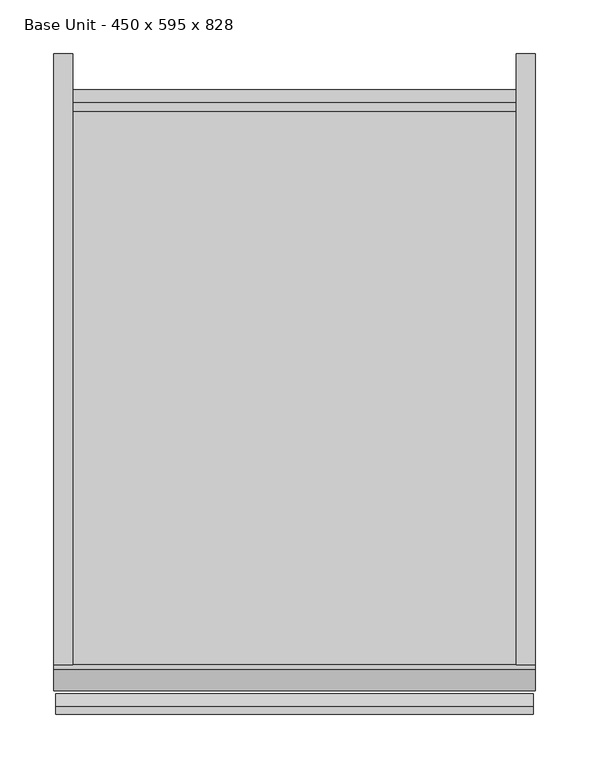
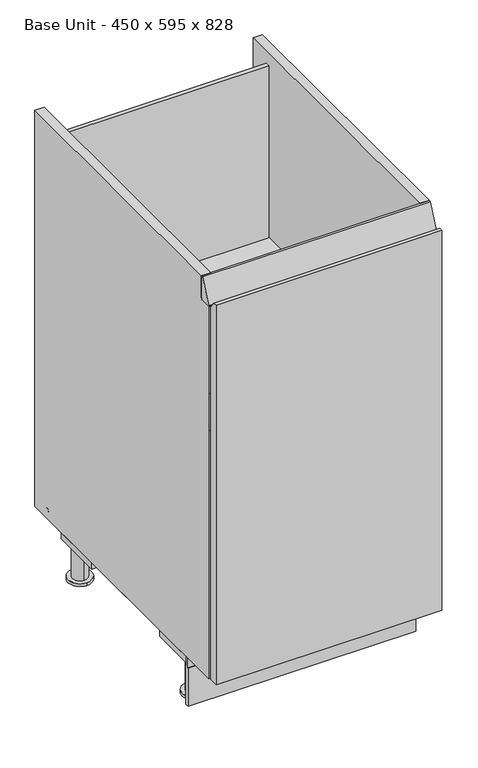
"""IFC4 building model written with IfcOpenShell, lengths in millimetres: furniture geometry, Furniture_Other-Furniture_Molteni&C_Prime_Base : Base Unit - 450 x 595 x 828."""

from ifc_helpers import new_model, si_unit, point, frame, frame_2d, origin, place, context, project, spatial, polyline, circle_curve, trimmed, segment, composite_curve, outline, extrude, faceted_brep, source, transform, mapped, element, save
from ifc_brep_helpers import plane_surface, cylinder_surface, advanced_brep


def base_unit_450_x_595_x_828_44056503(model_context):
    return source(origin(), model_context, "Body", "SolidModel", [
        extrude(outline(polyline([(207.0, 243.4999806), (207.0, -297.5), (-207.0, -297.5), (-207.0, 243.4999806), (207.0, 243.4999806)])), frame((0.0, 0.0, 521.0), z_axis=(0.0, 0.0, 1.0), x_axis=(1.0, 0.0, 0.0)), (0.0, 0.0, 1.0), 22.0),
        extrude(outline(composite_curve([segment(polyline([(-273.0222513, 928.0), (297.5, 928.0), (297.5, 100.0), (-297.5, 100.0), (-297.5, 618.8689315), (-297.5, 696.0050795), (-297.5, 878.3669795), (-277.034701, 878.3669795)]), True, "CONTINUOUS"), segment(trimmed(circle_curve(frame_2d((-277.034701, 882.3794292)), 4.0124497), [point((-277.034701, 878.3669795))], [point((-273.0222513, 882.3794292))], True, "CARTESIAN"), True, "CONTINUOUS"), segment(polyline([(-273.0222513, 882.3794292), (-273.0222513, 928.0)]), True, "CONTINUOUS")], self_intersect=False)), frame((-225.0, 0.0, 0.0), z_axis=(1.0, 0.0, 0.0), x_axis=(0.0, 1.0, 0.0)), (0.0, 0.0, 1.0), 18.0),
        extrude(outline(composite_curve([segment(polyline([(-273.0222513, 928.0), (297.5, 928.0), (297.5, 100.0), (-297.5, 100.0), (-297.5, 522.8850722), (-297.5, 728.3662692), (-297.5, 878.3669795), (-277.034701, 878.3669795)]), True, "CONTINUOUS"), segment(trimmed(circle_curve(frame_2d((-277.034701, 882.3794292)), 4.0124497), [point((-277.034701, 878.3669795))], [point((-273.0222513, 882.3794292))], True, "CARTESIAN"), True, "CONTINUOUS"), segment(polyline([(-273.0222513, 882.3794292), (-273.0222513, 928.0)]), True, "CONTINUOUS")], self_intersect=False)), frame((207.0, 0.0, 0.0), z_axis=(1.0, 0.0, 0.0), x_axis=(0.0, 1.0, 0.0)), (0.0, 0.0, 1.0), 18.0),
        advanced_brep(
        [(225.0, -227.5, 80.0), (225.0, -227.5, 0.0), (225.0, -219.5, 0.0), (225.0, -219.5, 80.0), (225.0, -220.5, 80.0), (225.0, -220.5, 100.0), (225.0, -226.5, 100.0), (225.0, -226.5, 80.0), (-225.0, -227.5, 80.0), (-225.0, -226.5, 80.0), (-225.0, -226.5, 100.0), (-225.0, -220.5, 100.0), (-225.0, -220.5, 80.0), (-225.0, -219.5, 80.0), (-225.0, -219.5, 0.0), (-225.0, -227.5, 0.0), (-217.0, -219.5, 80.0), (-217.0, -219.5, 76.0), (-112.4, -219.5, 76.0), (-112.4, -219.5, 80.0), (112.0, -219.5, 80.0), (112.0, -219.5, 76.0), (217.0, -219.5, 76.0), (217.0, -219.5, 80.0), (217.0, -220.2543184, 80.0), (112.0, -220.2543184, 80.0), (-112.4, -220.2543184, 80.0), (-217.0, -220.2543184, 80.0), (217.0, -220.2543184, 100.0), (217.0, -116.0117937, 100.0), (187.0, -116.0117937, 100.0), (112.0, -183.4214322, 100.0), (112.0, -220.2543184, 100.0), (-217.0, -220.2543184, 100.0), (-112.4, -220.2543184, 100.0), (-112.4, -183.3866121, 100.0), (-187.0, -116.0117937, 100.0), (-217.0, -116.0117937, 100.0), (112.0, -183.4214322, 76.0), (187.0, -116.0117937, 76.0), (217.0, -116.0117937, 76.0), (195.0, -210.450213, 76.0), (195.0, -180.450213, 76.0), (-217.0, -116.0117937, 76.0), (-187.0, -116.0117937, 76.0), (-112.4, -183.3866121, 76.0), (-195.0, -210.450213, 76.0), (-195.0, -180.450213, 76.0), (195.0, -172.0406948, 0.0), (195.0, -219.0487988, 0.0), (-195.0, -219.04912, 0.0), (-195.0, -172.041016, 0.0), (-195.0, -210.450213, 6.1757403), (-195.0, -180.450213, 6.1757403), (195.0, -210.450213, 6.1757403), (195.0, -180.450213, 6.1757403), (195.0, -172.0406948, 6.1757403), (195.0, -219.0487988, 6.1757403), (-195.0, -219.04912, 6.1757403), (-195.0, -172.041016, 6.1757403)],
        [
            (0, 1),
            (1, 2),
            (2, 3),
            (3, 4),
            (4, 5),
            (5, 6),
            (6, 7),
            (7, 0),
            (8, 9),
            (9, 10),
            (10, 11),
            (11, 12),
            (12, 13),
            (13, 14),
            (14, 15),
            (15, 8),
            (0, 8),
            (15, 1),
            (14, 2),
            (13, 16),
            (16, 17),
            (17, 18),
            (18, 19),
            (19, 20),
            (20, 21),
            (21, 22),
            (22, 23),
            (23, 3),
            (23, 24),
            (24, 25),
            (25, 20),
            (19, 26),
            (26, 27),
            (27, 16),
            (12, 4),
            (11, 5),
            (10, 6),
            (9, 7),
            (28, 29),
            (29, 30),
            (30, 31),
            (31, 32),
            (32, 28),
            (33, 34),
            (34, 35),
            (35, 36),
            (36, 37),
            (37, 33),
            (38, 39),
            (39, 40),
            (40, 22),
            (21, 38),
            (41, 42, circle_curve(frame((195.0, -195.450213, 76.0), z_axis=(0.0, 0.0, 1.0), x_axis=(1.0, 0.0, 0.0)), 15.0)),
            (42, 41, circle_curve(frame((195.0, -195.450213, 76.0), z_axis=(0.0, 0.0, 1.0), x_axis=(1.0, 0.0, 0.0)), 15.0)),
            (43, 44),
            (44, 45),
            (45, 18),
            (17, 43),
            (46, 47, circle_curve(frame((-195.0, -195.450213, 76.0), z_axis=(0.0, 0.0, 1.0), x_axis=(1.0, 0.0, 0.0)), 15.0)),
            (47, 46, circle_curve(frame((-195.0, -195.450213, 76.0), z_axis=(0.0, 0.0, 1.0), x_axis=(1.0, 0.0, 0.0)), 15.0)),
            (28, 24),
            (40, 29),
            (39, 30),
            (38, 31),
            (25, 32),
            (33, 27),
            (26, 34),
            (45, 35),
            (44, 36),
            (43, 37),
            (48, 49, circle_curve(frame((195.0, -195.5447468, 0.0), z_axis=(0.0, 0.0, -1.0), x_axis=(1.0, 0.0, 0.0)), 23.504052)),
            (49, 48, circle_curve(frame((195.0, -195.5447468, 0.0), z_axis=(0.0, 0.0, -1.0), x_axis=(1.0, 0.0, 0.0)), 23.504052)),
            (50, 51, circle_curve(frame((-195.0, -195.545068, 0.0), z_axis=(0.0, 0.0, -1.0), x_axis=(1.0, 0.0, 0.0)), 23.504052)),
            (51, 50, circle_curve(frame((-195.0, -195.545068, 0.0), z_axis=(0.0, 0.0, -1.0), x_axis=(1.0, 0.0, 0.0)), 23.504052)),
            (46, 52),
            (52, 53, circle_curve(frame((-195.0, -195.450213, 6.1757403), z_axis=(0.0, 0.0, 1.0), x_axis=(1.0, 0.0, 0.0)), 15.0)),
            (53, 47),
            (53, 52, circle_curve(frame((-195.0, -195.450213, 6.1757403), z_axis=(0.0, 0.0, 1.0), x_axis=(1.0, 0.0, 0.0)), 15.0)),
            (41, 54),
            (54, 55, circle_curve(frame((195.0, -195.450213, 6.1757403), z_axis=(0.0, 0.0, 1.0), x_axis=(1.0, 0.0, 0.0)), 15.0)),
            (55, 42),
            (55, 54, circle_curve(frame((195.0, -195.450213, 6.1757403), z_axis=(0.0, 0.0, 1.0), x_axis=(1.0, 0.0, 0.0)), 15.0)),
            (56, 57, circle_curve(frame((195.0, -195.5447468, 6.1757403), z_axis=(0.0, 0.0, 1.0), x_axis=(1.0, 0.0, 0.0)), 23.504052)),
            (57, 56, circle_curve(frame((195.0, -195.5447468, 6.1757403), z_axis=(0.0, 0.0, 1.0), x_axis=(1.0, 0.0, 0.0)), 23.504052)),
            (58, 59, circle_curve(frame((-195.0, -195.545068, 6.1757403), z_axis=(0.0, 0.0, 1.0), x_axis=(1.0, 0.0, 0.0)), 23.504052)),
            (59, 58, circle_curve(frame((-195.0, -195.545068, 6.1757403), z_axis=(0.0, 0.0, 1.0), x_axis=(1.0, 0.0, 0.0)), 23.504052)),
            (56, 48),
            (49, 57),
            (58, 50),
            (51, 59),
        ],
        [
            plane_surface(frame((225.0, -227.5, 0.0), z_axis=(1.0, 0.0, 0.0), x_axis=(0.0, 0.0, -1.0))),
            plane_surface(frame((-225.0, -227.5, 0.0), z_axis=(-1.0, 0.0, 0.0), x_axis=(0.0, 0.0, 1.0))),
            plane_surface(frame((225.0, -227.5, 80.0), z_axis=(0.0, -1.0, 0.0), x_axis=(-1.0, 0.0, 0.0))),
            plane_surface(frame((225.0, -227.5, 0.0), z_axis=(0.0, 0.0, -1.0), x_axis=(-1.0, 0.0, 0.0))),
            plane_surface(frame((225.0, -219.5, 0.0), z_axis=(0.0, 1.0, 0.0), x_axis=(-1.0, 0.0, 0.0))),
            plane_surface(frame((225.0, -219.5, 80.0), z_axis=(0.0, 0.0, 1.0), x_axis=(-1.0, 0.0, 0.0))),
            plane_surface(frame((225.0, -220.5, 80.0), z_axis=(0.0, 1.0, 0.0), x_axis=(-1.0, 0.0, 0.0))),
            plane_surface(frame((225.0, -220.5, 100.0), z_axis=(0.0, 0.0, 1.0), x_axis=(-1.0, 0.0, 0.0))),
            plane_surface(frame((225.0, -226.5, 100.0), z_axis=(0.0, -1.0, 0.0), x_axis=(-1.0, 0.0, 0.0))),
            plane_surface(frame((225.0, -226.5, 80.0), z_axis=(0.0, 0.0, 1.0), x_axis=(-1.0, 0.0, 0.0))),
            plane_surface(frame((-217.0, 116.2642334, 100.0), z_axis=(0.0, 0.0, 1.0), x_axis=(1.0, 0.0, 0.0))),
            plane_surface(frame((-217.0, 116.2642334, 76.0), z_axis=(0.0, 0.0, -1.0), x_axis=(-1.0, 0.0, 0.0))),
            plane_surface(frame((217.0, -220.2543184, 100.0), z_axis=(1.0, 0.0, 0.0), x_axis=(0.0, 0.0, -1.0))),
            plane_surface(frame((217.0, -116.0117937, 100.0), z_axis=(0.0, 1.0, 0.0), x_axis=(0.0, 0.0, -1.0))),
            plane_surface(frame((187.0, -116.0117937, 100.0), z_axis=(-0.6684695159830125, 0.7437395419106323, 0.0), x_axis=(0.0, 0.0, -1.0))),
            plane_surface(frame((112.0, -183.4214322, 100.0), z_axis=(-1.0, 0.0, 0.0), x_axis=(0.0, 0.0, -1.0))),
            plane_surface(frame((112.0, -220.2543184, 100.0), z_axis=(0.0, -1.0, 0.0), x_axis=(0.0, 0.0, -1.0))),
            plane_surface(frame((-217.0, -220.2543184, 100.0), z_axis=(0.0, -1.0, 0.0), x_axis=(0.0, 0.0, -1.0))),
            plane_surface(frame((-112.4, -220.2543184, 100.0), z_axis=(1.0, 0.0, 0.0), x_axis=(0.0, 0.0, -1.0))),
            plane_surface(frame((-112.4, -183.3866121, 100.0), z_axis=(0.6702543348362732, 0.7421314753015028, 0.0), x_axis=(0.0, 0.0, -1.0))),
            plane_surface(frame((-187.0, -116.0117937, 100.0), z_axis=(0.0, 1.0, 0.0), x_axis=(0.0, 0.0, -1.0))),
            plane_surface(frame((-217.0, -116.0117937, 100.0), z_axis=(-1.0, 0.0, 0.0), x_axis=(0.0, 0.0, -1.0))),
            plane_surface(frame((-180.0, 195.450213, 0.0), z_axis=(0.0, 0.0, -1.0), x_axis=(0.0, -1.0, 0.0))),
            cylinder_surface(frame((-195.0, -195.450213, 0.0), z_axis=(0.0, 0.0, 1.0), x_axis=(1.0, 0.0, 0.0)), 15.0),
            cylinder_surface(frame((195.0, -195.450213, 0.0), z_axis=(0.0, 0.0, 1.0), x_axis=(1.0, 0.0, 0.0)), 15.0),
            plane_surface(frame((218.504052, -195.5447468, 6.1757403), z_axis=(0.0, 0.0, 1.0), x_axis=(0.0, 1.0, 0.0))),
            cylinder_surface(frame((195.0, -195.5447468, 0.0), z_axis=(0.0, 0.0, 1.0), x_axis=(1.0, 0.0, 0.0)), 23.504052),
            cylinder_surface(frame((-195.0, -195.545068, 0.0), z_axis=(0.0, 0.0, 1.0), x_axis=(1.0, 0.0, 0.0)), 23.504052),
        ],
        [
            (0, [[1, 2, 3, 4, 5, 6, 7, 8]]),
            (1, [[9, 10, 11, 12, 13, 14, 15, 16]]),
            (2, [[-1, 17, -16, 18]]),
            (3, [[-2, -18, -15, 19]]),
            (4, [[-3, -19, -14, 20, 21, 22, 23, 24, 25, 26, 27, 28]]),
            (5, [[-4, -28, 29, 30, 31, -24, 32, 33, 34, -20, -13, 35]]),
            (6, [[-5, -35, -12, 36]]),
            (7, [[-6, -36, -11, 37]]),
            (8, [[-7, -37, -10, 38]]),
            (9, [[-8, -38, -9, -17]]),
            (10, [[39, 40, 41, 42, 43]]),
            (10, [[44, 45, 46, 47, 48]]),
            (11, [[49, 50, 51, -26, 52], [53, 54]]),
            (11, [[55, 56, 57, -22, 58], [59, 60]]),
            (12, [[-39, 61, -29, -27, -51, 62]]),
            (13, [[-40, -62, -50, 63]]),
            (14, [[-41, -63, -49, 64]]),
            (15, [[-42, -64, -52, -25, -31, 65]]),
            (16, [[-43, -65, -30, -61]]),
            (17, [[-44, 66, -33, 67]]),
            (18, [[-45, -67, -32, -23, -57, 68]]),
            (19, [[-46, -68, -56, 69]]),
            (20, [[-47, -69, -55, 70]]),
            (21, [[-48, -70, -58, -21, -34, -66]]),
            (22, [[71, 72]]),
            (22, [[73, 74]]),
            (23, [[-59, 75, 76, 77]]),
            (23, [[-60, -77, 78, -75]]),
            (24, [[-53, 79, 80, 81]]),
            (24, [[-54, -81, 82, -79]]),
            (25, [[83, 84], [-80, -82]]),
            (25, [[85, 86], [-76, -78]]),
            (26, [[-83, 87, -72, 88]]),
            (26, [[-84, -88, -71, -87]]),
            (27, [[-85, 89, -74, 90]]),
            (27, [[-86, -90, -73, -89]]),
        ],
    ),
        advanced_brep(
        [(-217.0, 116.2642334, 100.0), (-187.0, 116.2642334, 100.0), (-112.4, 183.6390518, 100.0), (-112.4, 220.9077377, 100.0), (-217.0, 220.9077377, 100.0), (-217.0, 116.2642334, 76.0), (-217.0, 220.9077377, 76.0), (-112.4, 220.9077377, 76.0), (-112.4, 183.6390518, 76.0), (-187.0, 116.2642334, 76.0), (-195.0, 180.450213, 76.0), (-195.0, 210.450213, 76.0), (-195.0, 219.004052, 0.0), (-195.0, 171.995948, 0.0), (-195.0, 180.450213, 6.1757403), (-195.0, 210.450213, 6.1757403), (-195.0, 219.004052, 6.1757403), (-195.0, 171.995948, 6.1757403)],
        [
            (0, 1),
            (1, 2),
            (2, 3),
            (3, 4),
            (4, 0),
            (5, 6),
            (6, 7),
            (7, 8),
            (8, 9),
            (9, 5),
            (10, 11, circle_curve(frame((-195.0, 195.450213, 76.0), z_axis=(0.0, 0.0, 1.0), x_axis=(1.0, 0.0, 0.0)), 15.0)),
            (11, 10, circle_curve(frame((-195.0, 195.450213, 76.0), z_axis=(0.0, 0.0, 1.0), x_axis=(1.0, 0.0, 0.0)), 15.0)),
            (0, 5),
            (9, 1),
            (8, 2),
            (7, 3),
            (6, 4),
            (12, 13, circle_curve(frame((-195.0, 195.5, 0.0), z_axis=(0.0, 0.0, -1.0), x_axis=(1.0, 0.0, 0.0)), 23.504052)),
            (13, 12, circle_curve(frame((-195.0, 195.5, 0.0), z_axis=(0.0, 0.0, -1.0), x_axis=(1.0, 0.0, 0.0)), 23.504052)),
            (10, 14),
            (14, 15, circle_curve(frame((-195.0, 195.450213, 6.1757403), z_axis=(0.0, 0.0, 1.0), x_axis=(1.0, 0.0, 0.0)), 15.0)),
            (15, 11),
            (15, 14, circle_curve(frame((-195.0, 195.450213, 6.1757403), z_axis=(0.0, 0.0, 1.0), x_axis=(1.0, 0.0, 0.0)), 15.0)),
            (16, 17, circle_curve(frame((-195.0, 195.5, 6.1757403), z_axis=(0.0, 0.0, 1.0), x_axis=(1.0, 0.0, 0.0)), 23.504052)),
            (17, 16, circle_curve(frame((-195.0, 195.5, 6.1757403), z_axis=(0.0, 0.0, 1.0), x_axis=(1.0, 0.0, 0.0)), 23.504052)),
            (16, 12),
            (13, 17),
        ],
        [
            plane_surface(frame((-217.0, 116.2642334, 100.0), z_axis=(0.0, 0.0, 1.0), x_axis=(1.0, 0.0, 0.0))),
            plane_surface(frame((-217.0, 116.2642334, 76.0), z_axis=(0.0, 0.0, -1.0), x_axis=(-1.0, 0.0, 0.0))),
            plane_surface(frame((-217.0, 116.2642334, 100.0), z_axis=(0.0, -1.0, 0.0), x_axis=(0.0, 0.0, -1.0))),
            plane_surface(frame((-187.0, 116.2642334, 100.0), z_axis=(0.6702543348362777, -0.7421314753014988, 0.0), x_axis=(0.0, 0.0, -1.0))),
            plane_surface(frame((-112.4, 183.6390518, 100.0), z_axis=(1.0, 0.0, 0.0), x_axis=(0.0, 0.0, -1.0))),
            plane_surface(frame((-112.4, 220.9077377, 100.0), z_axis=(0.0, 1.0, 0.0), x_axis=(0.0, 0.0, -1.0))),
            plane_surface(frame((-217.0, 220.9077377, 100.0), z_axis=(-1.0, 0.0, 0.0), x_axis=(0.0, 0.0, -1.0))),
            plane_surface(frame((-180.0, 195.450213, 0.0), z_axis=(0.0, 0.0, -1.0), x_axis=(0.0, -1.0, 0.0))),
            cylinder_surface(frame((-195.0, 195.450213, 0.0), z_axis=(0.0, 0.0, 1.0), x_axis=(1.0, 0.0, 0.0)), 15.0),
            plane_surface(frame((218.504052, -195.5447468, 6.1757403), z_axis=(0.0, 0.0, 1.0), x_axis=(0.0, 1.0, 0.0))),
            cylinder_surface(frame((-195.0, 195.5, 0.0), z_axis=(0.0, 0.0, 1.0), x_axis=(1.0, 0.0, 0.0)), 23.504052),
        ],
        [
            (0, [[1, 2, 3, 4, 5]]),
            (1, [[6, 7, 8, 9, 10], [11, 12]]),
            (2, [[-1, 13, -10, 14]]),
            (3, [[-2, -14, -9, 15]]),
            (4, [[-3, -15, -8, 16]]),
            (5, [[-4, -16, -7, 17]]),
            (6, [[-5, -17, -6, -13]]),
            (7, [[18, 19]]),
            (8, [[-11, 20, 21, 22]]),
            (8, [[-12, -22, 23, -20]]),
            (9, [[24, 25], [-21, -23]]),
            (10, [[-24, 26, -19, 27]]),
            (10, [[-25, -27, -18, -26]]),
        ],
    ),
        advanced_brep(
        [(217.0, 116.2642334, 100.0), (217.0, 220.9077377, 100.0), (112.0, 220.9077377, 100.0), (112.0, 183.673872, 100.0), (187.0, 116.2642334, 100.0), (217.0, 116.2642334, 76.0), (187.0, 116.2642334, 76.0), (112.0, 183.673872, 76.0), (112.0, 220.9077377, 76.0), (217.0, 220.9077377, 76.0), (195.0, 180.450213, 76.0), (195.0, 210.450213, 76.0), (195.0, 219.004052, 0.0), (195.0, 171.995948, 0.0), (195.0, 180.450213, 6.1757403), (195.0, 210.450213, 6.1757403), (195.0, 219.004052, 6.1757403), (195.0, 171.995948, 6.1757403)],
        [
            (0, 1),
            (1, 2),
            (2, 3),
            (3, 4),
            (4, 0),
            (5, 6),
            (6, 7),
            (7, 8),
            (8, 9),
            (9, 5),
            (10, 11, circle_curve(frame((195.0, 195.450213, 76.0), z_axis=(0.0, 0.0, 1.0), x_axis=(1.0, 0.0, 0.0)), 15.0)),
            (11, 10, circle_curve(frame((195.0, 195.450213, 76.0), z_axis=(0.0, 0.0, 1.0), x_axis=(1.0, 0.0, 0.0)), 15.0)),
            (0, 5),
            (9, 1),
            (8, 2),
            (7, 3),
            (6, 4),
            (12, 13, circle_curve(frame((195.0, 195.5, 0.0), z_axis=(0.0, 0.0, -1.0), x_axis=(1.0, 0.0, 0.0)), 23.504052)),
            (13, 12, circle_curve(frame((195.0, 195.5, 0.0), z_axis=(0.0, 0.0, -1.0), x_axis=(1.0, 0.0, 0.0)), 23.504052)),
            (10, 14),
            (14, 15, circle_curve(frame((195.0, 195.450213, 6.1757403), z_axis=(0.0, 0.0, 1.0), x_axis=(1.0, 0.0, 0.0)), 15.0)),
            (15, 11),
            (15, 14, circle_curve(frame((195.0, 195.450213, 6.1757403), z_axis=(0.0, 0.0, 1.0), x_axis=(1.0, 0.0, 0.0)), 15.0)),
            (16, 17, circle_curve(frame((195.0, 195.5, 6.1757403), z_axis=(0.0, 0.0, 1.0), x_axis=(1.0, 0.0, 0.0)), 23.504052)),
            (17, 16, circle_curve(frame((195.0, 195.5, 6.1757403), z_axis=(0.0, 0.0, 1.0), x_axis=(1.0, 0.0, 0.0)), 23.504052)),
            (16, 12),
            (13, 17),
        ],
        [
            plane_surface(frame((-217.0, 116.2642334, 100.0), z_axis=(0.0, 0.0, 1.0), x_axis=(1.0, 0.0, 0.0))),
            plane_surface(frame((-217.0, 116.2642334, 76.0), z_axis=(0.0, 0.0, -1.0), x_axis=(-1.0, 0.0, 0.0))),
            plane_surface(frame((217.0, 116.2642334, 100.0), z_axis=(1.0, 0.0, 0.0), x_axis=(0.0, 0.0, -1.0))),
            plane_surface(frame((217.0, 220.9077377, 100.0), z_axis=(0.0, 1.0, 0.0), x_axis=(0.0, 0.0, -1.0))),
            plane_surface(frame((112.0, 220.9077377, 100.0), z_axis=(-1.0, 0.0, 0.0), x_axis=(0.0, 0.0, -1.0))),
            plane_surface(frame((112.0, 183.673872, 100.0), z_axis=(-0.6684695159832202, -0.7437395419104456, 0.0), x_axis=(0.0, 0.0, -1.0))),
            plane_surface(frame((187.0, 116.2642334, 100.0), z_axis=(0.0, -1.0, 0.0), x_axis=(0.0, 0.0, -1.0))),
            plane_surface(frame((-180.0, 195.450213, 0.0), z_axis=(0.0, 0.0, -1.0), x_axis=(0.0, -1.0, 0.0))),
            cylinder_surface(frame((195.0, 195.450213, 0.0), z_axis=(0.0, 0.0, 1.0), x_axis=(1.0, 0.0, 0.0)), 15.0),
            plane_surface(frame((218.504052, -195.5447468, 6.1757403), z_axis=(0.0, 0.0, 1.0), x_axis=(0.0, 1.0, 0.0))),
            cylinder_surface(frame((195.0, 195.5, 0.0), z_axis=(0.0, 0.0, 1.0), x_axis=(1.0, 0.0, 0.0)), 23.504052),
        ],
        [
            (0, [[1, 2, 3, 4, 5]]),
            (1, [[6, 7, 8, 9, 10], [11, 12]]),
            (2, [[-1, 13, -10, 14]]),
            (3, [[-2, -14, -9, 15]]),
            (4, [[-3, -15, -8, 16]]),
            (5, [[-4, -16, -7, 17]]),
            (6, [[-5, -17, -6, -13]]),
            (7, [[18, 19]]),
            (8, [[-11, 20, 21, 22]]),
            (8, [[-12, -22, 23, -20]]),
            (9, [[24, 25], [-21, -23]]),
            (10, [[-24, 26, -19, 27]]),
            (10, [[-25, -27, -18, -26]]),
        ],
    ),
        faceted_brep([(-212.0, 251.5, 902.7620501), (-212.0, 243.4999806, 902.7620501), (212.0, 243.4999806, 902.7620501), (212.0, 251.5, 902.7620501), (-212.0, 251.5, 122.0), (-212.0, 251.5, 118.0), (-212.0, 243.4999806, 118.0), (-212.0, 243.4999806, 122.0), (212.0, 243.4999806, 122.0), (212.0, 243.4999806, 118.0), (212.0, 251.5, 118.0), (212.0, 251.5, 122.0), (225.0, 243.4999806, 122.0), (225.0, -297.5, 122.0), (225.0, -297.5, 100.0), (225.0, 264.0007224, 100.0), (225.0, 264.0007224, 122.0), (225.0, 251.5, 122.0), (225.0, 251.5, 118.0), (225.0, 243.4999806, 118.0), (-225.0, 243.4999806, 122.0), (-225.0, 243.4999806, 118.0), (-225.0, 251.5, 118.0), (-225.0, 251.5, 122.0), (-225.0, 264.0007224, 122.0), (-225.0, 264.0007224, 100.0), (-225.0, -297.5, 100.0), (-225.0, -297.5, 122.0)], [[[0, 1, 2, 3]], [[1, 0, 4, 5, 6, 7]], [[2, 1, 7, 8]], [[3, 2, 8, 9, 10, 11]], [[0, 3, 11, 4]], [[12, 13, 14, 15, 16, 17, 18, 19]], [[20, 21, 22, 23, 24, 25, 26, 27]], [[13, 12, 8, 7, 20, 27]], [[14, 13, 27, 26]], [[15, 14, 26, 25]], [[16, 15, 25, 24]], [[17, 16, 24, 23, 4, 11]], [[18, 17, 11, 10]], [[23, 22, 5, 4]], [[19, 18, 10, 9]], [[22, 21, 6, 5]], [[12, 19, 9, 8]], [[21, 20, 7, 6]]]),
        extrude(outline(composite_curve([segment(polyline([(-297.5, 880.3416662), (-277.2702375, 928.0), (-273.0222513, 928.0), (-273.0222513, 882.3794292)]), True, "CONTINUOUS"), segment(trimmed(circle_curve(frame_2d((-277.034701, 882.3794292)), 4.0124497), [point((-273.0222513, 882.3794292))], [point((-277.034701, 878.3669795))], False, "CARTESIAN"), True, "CONTINUOUS"), segment(polyline([(-277.034701, 878.3669795), (-297.5, 878.3669795), (-297.5, 880.3416662)]), True, "CONTINUOUS")], self_intersect=False)), frame((-225.0, 0.0, 0.0), z_axis=(1.0, 0.0, 0.0), x_axis=(0.0, 1.0, 0.0)), (0.0, 0.0, 1.0), 450.0),
        extrude(outline(polyline([(-319.5, 100.0), (-319.5, 894.0), (-312.4241838, 894.0), (-300.5, 878.498561), (-300.5, 100.0), (-319.5, 100.0)])), frame((-223.0, 0.0, 0.0), z_axis=(1.0, 0.0, 0.0), x_axis=(0.0, 1.0, 0.0)), (0.0, 0.0, 1.0), 446.0),
    ])


if __name__ == "__main__":
    model = new_model("IFC4")
    model_context = context("Model", 3, world=origin())
    ifc_project = project(units=[si_unit("LENGTHUNIT", "METRE", prefix="MILLI")], contexts=[model_context])
    site = spatial("IfcSite", under=ifc_project)
    building = spatial("IfcBuilding", under=site)
    placement = place(None, origin())
    base_unit_450_x_595_x_828_shape = base_unit_450_x_595_x_828_44056503(model_context)
    element("IfcFurniture", 1, ObjectType="Furniture_Other-Furniture_Molteni&C_Prime_Base : Base Unit - 450 x 595 x 828", at=placement, inside=building, context=model_context, shape_type="MappedRepresentation", body=[
        mapped(base_unit_450_x_595_x_828_shape, transform((0.0, 0.0, 0.0), x_axis=(1.0, 0.0, 0.0), y_axis=(0.0, 1.0, 0.0), z_axis=(0.0, 0.0, 1.0))),
    ])
    save(model, "model.ifc")
